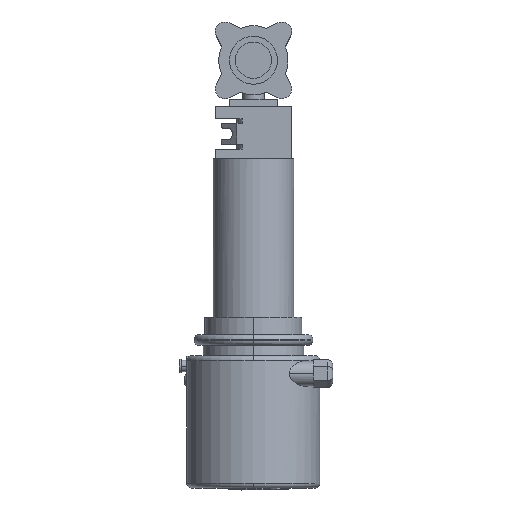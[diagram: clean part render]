
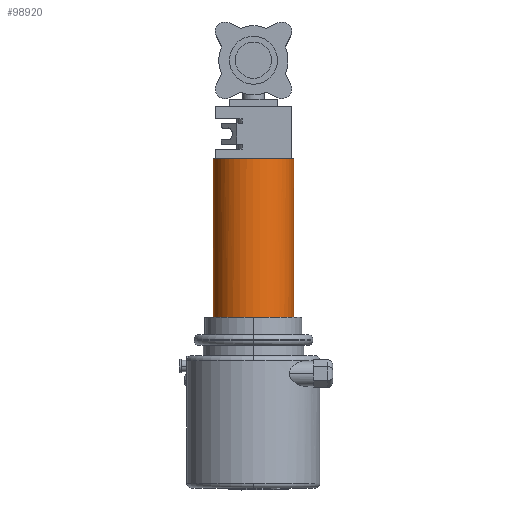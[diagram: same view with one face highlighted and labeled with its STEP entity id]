
A CAD part, top view. The second image highlights one B-rep face of the part: STEP entity #98920.
In plain terms, the highlighted cylindrical face has radius 42.5 mm (diameter 85 mm), a partial arc.
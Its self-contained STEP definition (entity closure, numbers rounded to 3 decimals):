
#100=CARTESIAN_POINT('',(-40.,0.,-14.361));
#110=VERTEX_POINT('',#100);
#160=CARTESIAN_POINT('',(0.,0.,0.));
#170=DIRECTION('',(0.,1.,0.));
#180=DIRECTION('',(-1.,0.,0.));
#190=AXIS2_PLACEMENT_3D('',#160,#170,#180);
#200=CIRCLE('',#190,42.5);
#210=CARTESIAN_POINT('',(-42.5,0.,0.));
#220=VERTEX_POINT('',#210);
#230=EDGE_CURVE('',#110,#220,#200,.T.);
#500=CARTESIAN_POINT('',(0.,167.,0.));
#510=DIRECTION('',(0.,1.,0.));
#520=DIRECTION('',(-1.,0.,0.));
#530=AXIS2_PLACEMENT_3D('',#500,#510,#520);
#540=CIRCLE('',#530,42.5);
#550=CARTESIAN_POINT('',(-42.5,167.,0.));
#560=VERTEX_POINT('',#550);
#570=CARTESIAN_POINT('',(42.5,167.,0.));
#580=VERTEX_POINT('',#570);
#610=EDGE_CURVE('',#580,#560,#540,.T.);
#710=CARTESIAN_POINT('',(-42.5,83.5,0.));
#720=DIRECTION('',(0.,-1.,0.));
#730=VECTOR('',#720,1.);
#740=LINE('',#710,#730);
#750=EDGE_CURVE('',#560,#220,#740,.T.);
#780=CARTESIAN_POINT('',(42.5,83.5,0.));
#790=DIRECTION('',(0.,-1.,0.));
#800=VECTOR('',#790,1.);
#810=LINE('',#780,#800);
#820=CARTESIAN_POINT('',(42.5,0.,0.));
#830=VERTEX_POINT('',#820);
#840=EDGE_CURVE('',#580,#830,#810,.T.);
#900=CARTESIAN_POINT('',(0.,0.,0.));
#910=DIRECTION('',(0.,-1.,0.));
#920=DIRECTION('',(-1.,0.,0.));
#930=AXIS2_PLACEMENT_3D('',#900,#910,#920);
#940=CIRCLE('',#930,42.5);
#7630=CARTESIAN_POINT('',(14.361,0.,-40.));
#7640=VERTEX_POINT('',#7630);
#7650=CARTESIAN_POINT('',(-14.361,0.,-40.));
#7660=VERTEX_POINT('',#7650);
#7670=EDGE_CURVE('',#7640,#7660,#200,.T.);
#7890=CARTESIAN_POINT('',(40.,0.,
-14.361));
#7900=VERTEX_POINT('',#7890);
#7910=EDGE_CURVE('',#830,#7900,#200,.T.);
#25890=EDGE_CURVE('',#110,#7660,#940,.T.);
#25940=EDGE_CURVE('',#7640,#7900,#940,.T.);
#98770=CARTESIAN_POINT('',(0.,83.5,0.));
#98780=DIRECTION('',(0.,-1.,0.));
#98790=DIRECTION('',(-1.,0.,0.));
#98800=AXIS2_PLACEMENT_3D('',#98770,#98780,#98790);
#98810=CYLINDRICAL_SURFACE('',#98800,42.5);
#98820=ORIENTED_EDGE('',*,*,#750,.F.);
#98830=ORIENTED_EDGE('',*,*,#230,.T.);
#98840=ORIENTED_EDGE('',*,*,#25890,.F.);
#98850=ORIENTED_EDGE('',*,*,#7670,.T.);
#98860=ORIENTED_EDGE('',*,*,#25940,.F.);
#98870=ORIENTED_EDGE('',*,*,#7910,.T.);
#98880=ORIENTED_EDGE('',*,*,#840,.T.);
#98890=ORIENTED_EDGE('',*,*,#610,.F.);
#98900=EDGE_LOOP('',(#98890,#98880,#98870,#98860,#98850,#98840,#98830,
#98820));
#98910=FACE_OUTER_BOUND('',#98900,.T.);
#98920=ADVANCED_FACE('',(#98910),#98810,.T.);
